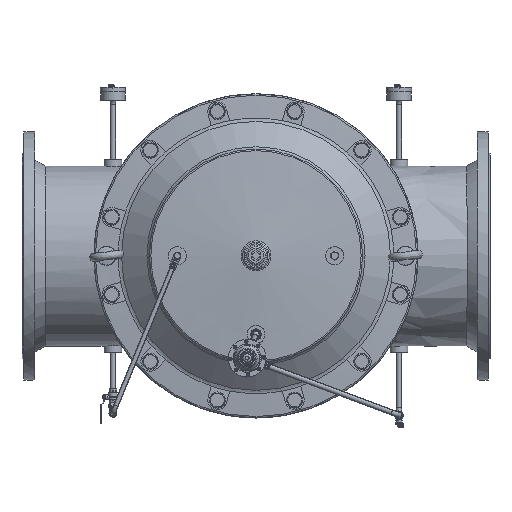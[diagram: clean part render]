
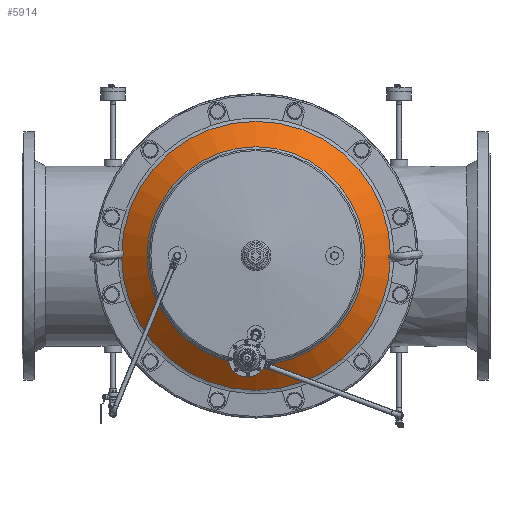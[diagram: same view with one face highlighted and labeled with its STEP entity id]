
A CAD part, top view. The second image highlights one B-rep face of the part: STEP entity #5914.
In plain terms, the highlighted conical face has half-angle 51.976 degrees and reference radius 254.963 mm.
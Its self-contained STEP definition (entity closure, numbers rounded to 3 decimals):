
#5914=ADVANCED_FACE('',(#19623,#19625),#19627,.T.);
#19623=FACE_OUTER_BOUND('',#19624,.T.);
#19624=EDGE_LOOP('',(#44048));
#19625=FACE_OUTER_BOUND('',#19626,.T.);
#19626=EDGE_LOOP('',(#44049));
#19627=CONICAL_SURFACE('',#19628,254.963,0.907);
#19628=AXIS2_PLACEMENT_3D('',#19629,#19630,#19631);
#19629=CARTESIAN_POINT('',(0.,-41.285,0.));
#19630=DIRECTION('',(0.,1.,0.));
#19631=DIRECTION('',(-1.,0.,0.));
#44048=ORIENTED_EDGE('',*,*,#51148,.F.);
#44049=ORIENTED_EDGE('',*,*,#51130,.F.);
#51130=EDGE_CURVE('',#56334,#56334,#56335,.T.);
#51148=EDGE_CURVE('',#56370,#56370,#56371,.F.);
#56334=VERTEX_POINT('',#82426);
#56335=CIRCLE('',#82427,228.338);
#56370=VERTEX_POINT('',#82516);
#56371=CIRCLE('',#82517,281.588);
#82426=CARTESIAN_POINT('',(228.338,-62.105,0.));
#82427=AXIS2_PLACEMENT_3D('',#82428,#82429,#82430);
#82428=CARTESIAN_POINT('',(0.,-62.105,0.));
#82429=DIRECTION('',(0.,-1.,0.));
#82430=DIRECTION('',(1.,0.,0.));
#82516=CARTESIAN_POINT('',(281.588,-20.465,0.));
#82517=AXIS2_PLACEMENT_3D('',#82518,#82519,#82520);
#82518=CARTESIAN_POINT('',(0.,-20.465,0.));
#82519=DIRECTION('',(0.,-1.,0.));
#82520=DIRECTION('',(1.,0.,0.));
